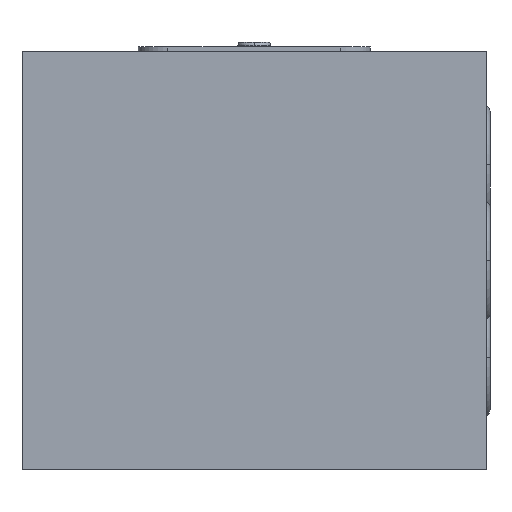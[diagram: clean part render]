
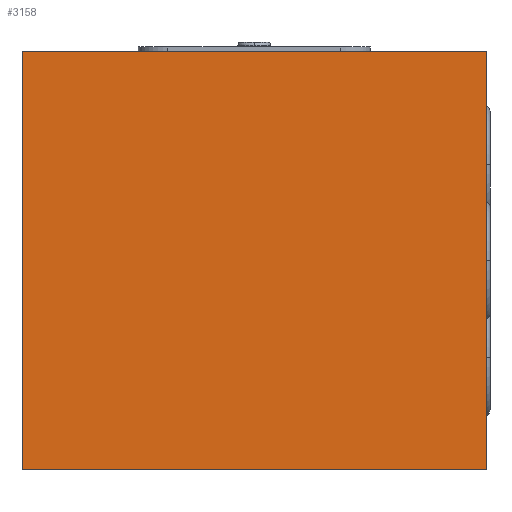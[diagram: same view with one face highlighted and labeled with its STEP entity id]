
A CAD part, left-side view. The second image highlights one B-rep face of the part: STEP entity #3158.
In plain terms, the highlighted planar face has unit normal (-1, 0, 0).
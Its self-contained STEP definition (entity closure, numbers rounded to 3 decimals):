
#56=DIRECTION('',(0.,0.,-1.));
#57=VECTOR('',#56,45.);
#58=CARTESIAN_POINT('',(0.,0.,0.));
#59=LINE('',#58,#57);
#63=DIRECTION('',(0.,1.,0.));
#64=VECTOR('',#63,50.);
#65=CARTESIAN_POINT('',(0.,0.,-45.));
#66=LINE('',#65,#64);
#70=DIRECTION('',(0.,0.,1.));
#71=VECTOR('',#70,45.);
#72=CARTESIAN_POINT('',(0.,50.,-45.));
#73=LINE('',#72,#71);
#77=DIRECTION('',(0.,-1.,0.));
#78=VECTOR('',#77,50.);
#79=CARTESIAN_POINT('',(0.,50.,0.));
#80=LINE('',#79,#78);
#2858=CARTESIAN_POINT('',(0.,0.,0.));
#2859=CARTESIAN_POINT('',(0.,0.,-45.));
#2860=VERTEX_POINT('',#2858);
#2861=VERTEX_POINT('',#2859);
#2862=CARTESIAN_POINT('',(0.,50.,-45.));
#2863=VERTEX_POINT('',#2862);
#2864=CARTESIAN_POINT('',(0.,50.,0.));
#2865=VERTEX_POINT('',#2864);
#3143=CARTESIAN_POINT('',(0.,0.,0.));
#3144=DIRECTION('',(1.,0.,0.));
#3145=DIRECTION('',(0.,0.,-1.));
#3146=AXIS2_PLACEMENT_3D('',#3143,#3144,#3145);
#3147=PLANE('',#3146);
#3149=ORIENTED_EDGE('',*,*,#3148,.T.);
#3151=ORIENTED_EDGE('',*,*,#3150,.T.);
#3153=ORIENTED_EDGE('',*,*,#3152,.T.);
#3155=ORIENTED_EDGE('',*,*,#3154,.T.);
#3156=EDGE_LOOP('',(#3149,#3151,#3153,#3155));
#3157=FACE_OUTER_BOUND('',#3156,.F.);
#3148=EDGE_CURVE('',#2860,#2861,#59,.T.);
#3150=EDGE_CURVE('',#2861,#2863,#66,.T.);
#3152=EDGE_CURVE('',#2863,#2865,#73,.T.);
#3154=EDGE_CURVE('',#2865,#2860,#80,.T.);
#3158=ADVANCED_FACE('',(#3157),#3147,.F.);
